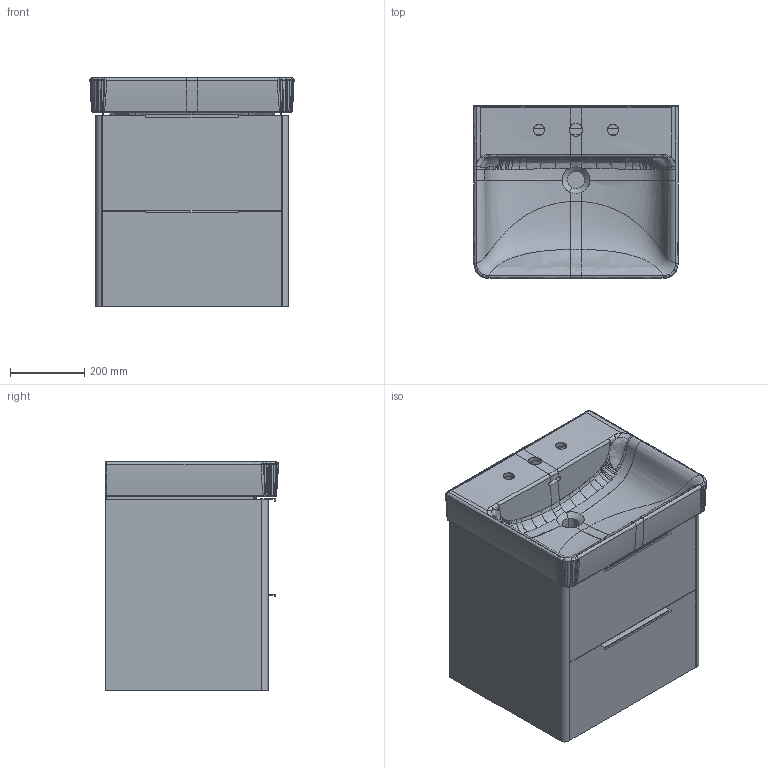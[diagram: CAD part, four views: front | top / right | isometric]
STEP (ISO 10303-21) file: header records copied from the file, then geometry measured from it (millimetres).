
FILE_DESCRIPTION(/* description */ (''),/* implementation_level */ '2;1');
FILE_NAME(/* name */ 'C:\Users\User33\Desktop\Base\3D01_402172.stp',/* time_stamp */ '2018-05-05T14:28:39+02:00',/* author */ ('User33'),/* organization */ (''),/* preprocessor_version */ 'ST-DEVELOPER v16.13',/* originating_system */ 'Autodesk Inventor 2018',/* authorisation */ '');
FILE_SCHEMA (('AUTOMOTIVE_DESIGN { 1 0 10303 214 3 1 1 }'));
Products named in the file (24): Scheletro monoblocco curvo 520; Catena_superiore; Frontale cassetto superiore; Catena inferiore; Fianco sx; Fianco dx; Fondo mobile; Fondo cassetto superiore; Fondo cassetto inferiore; Retro cassetto superiore; Fascia rialzo; Retro_cassetto inferiore; Frontale cassetto inferiore; Maniglia superiore; maniglia inferiore; 350-84; 350-84_1; 350-84_2; 350-84_3; 350-84_MIR; 350-84_1_MIR; 350-84_2_MIR; 350-84_3_MIR; HY10962......1_A
Assembly tree (25 placements, depth 3):
  Scheletro monoblocco curvo 520
    Catena_superiore
    Frontale cassetto superiore
    Catena inferiore
    Fianco sx
    Fianco dx
    Fondo mobile
    Fondo cassetto superiore
    Fondo cassetto inferiore
    Retro cassetto superiore
    Fascia rialzo
    Retro_cassetto inferiore
    Frontale cassetto inferiore
    Maniglia superiore
    maniglia inferiore
    350-84  x2
      350-84_1
      350-84_2
      350-84_3
    350-84_MIR  x2
      350-84_1_MIR
      350-84_2_MIR
      350-84_3_MIR
    HY10962......1_A
Bounding box: 549.94 x 464.97 x 617 mm (x, y, z)
Volume: 25018309.6 mm3; surface area: 4702857.8 mm2
Topology: 28 solids, 910 shells, 1845 faces, 7361 edges, 6488 vertices
Faces by surface type: plane 865, bspline 745, cylinder 206, cone 20, sphere 6, torus 3
Full cylindrical faces by diameter (mm): 4 x16, 4.1 x4, 5 x8, 5.1 x4, 6 x12, 6.3 x48
Entity records: 226410 total; most frequent: CARTESIAN_POINT 181856, ORIENTED_EDGE 7532, EDGE_CURVE 6139, DIRECTION 6081, VERTEX_POINT 5708, B_SPLINE_CURVE_WITH_KNOTS 2464, AXIS2_PLACEMENT_3D 2211, LINE 1659
